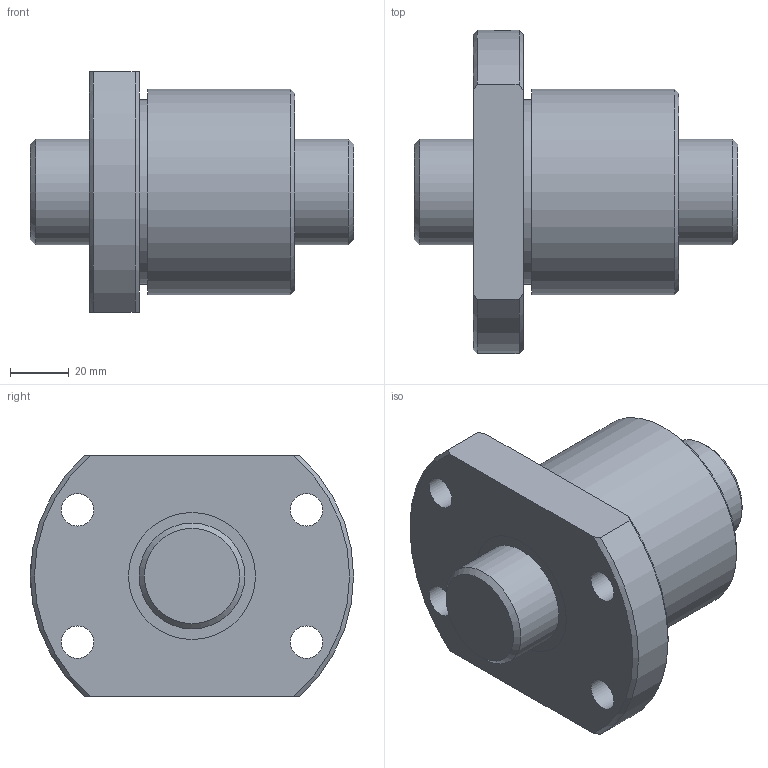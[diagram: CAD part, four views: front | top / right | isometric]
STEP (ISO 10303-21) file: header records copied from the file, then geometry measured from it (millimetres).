
FILE_DESCRIPTION(/* description */ ('STEP AP203'),/* implementation_level */ '2;1');
FILE_NAME(/* name */ 'BTK3610V-2.6ZZ+110LC7T_000',/* time_stamp */ '2025-01-16T07:58:08+01:00',/* author */ ('License CC BY-ND 4.0'),/* organization */ ('CADENAS'),/* preprocessor_version */ 'ST-DEVELOPER v19.3',/* originating_system */ 'PARTsolutions',/* authorisation */ ' ');
FILE_SCHEMA (('CONFIG_CONTROL_DESIGN'));
Length unit declared in the file: millimetre
Products named in the file (3): BTK3610V-2.6ZZ+110LC7T_000; BTK 3610V-2.600 Shaft; BTK 3610V-2.6ZZ Nut
Assembly tree (2 placements, depth 2):
  BTK3610V-2.6ZZ+110LC7T_000
    BTK 3610V-2.600 Shaft
    BTK 3610V-2.6ZZ Nut
Bounding box: 110 x 110 x 82 mm (x, y, z)
Volume: 371983.4 mm3; surface area: 56622.8 mm2
Topology: 2 solids, 2 shells, 31 faces, 66 edges, 43 vertices
Faces by surface type: cylinder 13, plane 10, cone 8
Full cylindrical faces by diameter (mm): 4.917 x1, 11 x4, 36 x2, 43.2 x2, 63 x1, 70 x1
Entity records: 887 total; most frequent: CARTESIAN_POINT 170, DIRECTION 140, ORIENTED_EDGE 100, AXIS2_PLACEMENT_3D 66, EDGE_LOOP 62, FACE_BOUND 62, EDGE_CURVE 50, VERTEX_POINT 42
